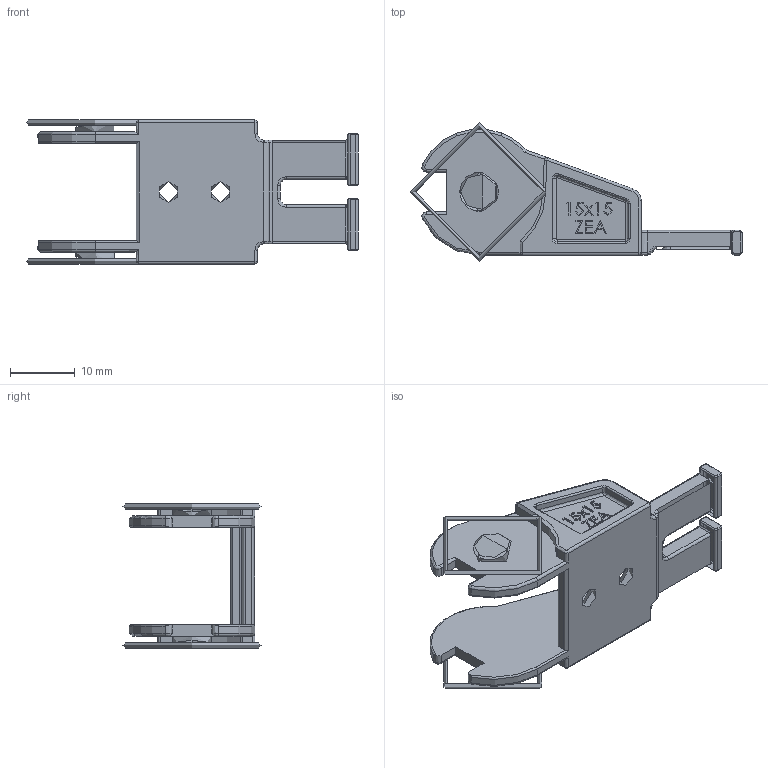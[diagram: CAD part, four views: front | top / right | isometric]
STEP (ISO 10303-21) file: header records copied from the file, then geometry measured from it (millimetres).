
FILE_DESCRIPTION((''),'2; 1');
FILE_NAME('','2026-03-26T10:12:41',(''),(''),'CST STEP Exporter V1.0','Unknown','');
FILE_SCHEMA(('CONFIG_CONTROL_DESIGN'));
Length unit declared in the file: metre
Bounding box: 51.15 x 21.3 x 22.2 mm (x, y, z)
Topology: 0 solids, 15 shells, 475 faces, 1284 edges, 817 vertices
Faces by surface type: plane 191, cylinder 175, torus 82, extrusion 16, sphere 7, cone 2, bspline 2
Full cylindrical faces by diameter (mm): 0.4 x2, 0.6 x2, 0.8 x4, 3.2 x2, 6 x2
Entity records: 19034 total; most frequent: CARTESIAN_POINT 3251, DIRECTION 2547, ORIENTED_EDGE 2434, EDGE_CURVE 1271, AXIS2_PLACEMENT_3D 902, VERTEX_POINT 807, VECTOR 743, LINE 727
